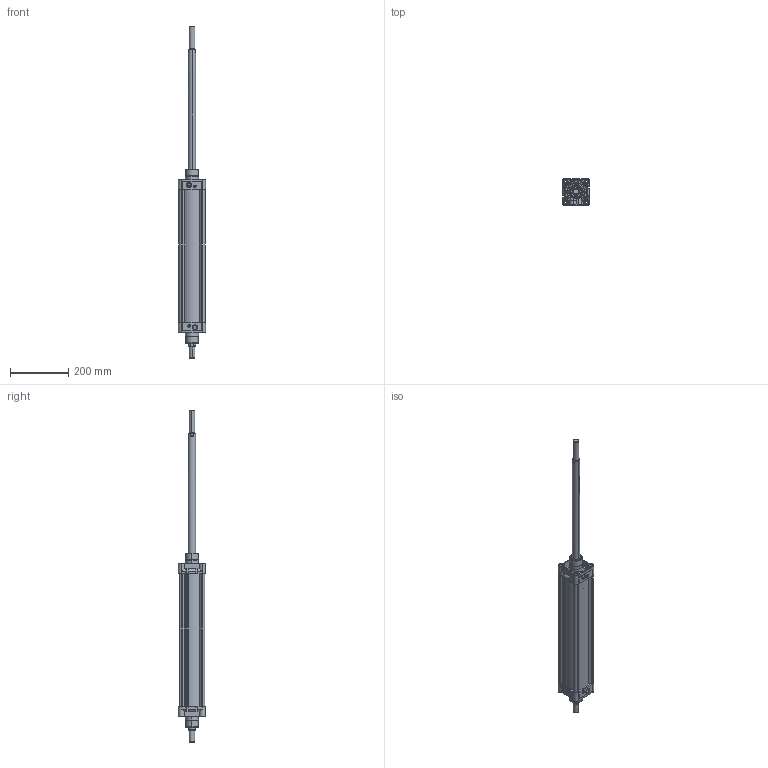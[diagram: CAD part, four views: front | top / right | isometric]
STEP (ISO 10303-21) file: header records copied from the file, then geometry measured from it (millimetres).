
FILE_DESCRIPTION (( 'STEP AP203' ), '1' );
FILE_NAME ('KDNT80X400CIFTMILLI-STROK AYARLI-CYLINDER.STEP', '2015-03-24T10:21:10', ( 'user' ), ( '' ), 'SwSTEP 2.0', 'SolidWorks 2013', '' );
FILE_SCHEMA (( 'CONFIG_CONTROL_DESIGN' ));
Length unit declared in the file: millimetre
Products named in the file (6): 烰 KAPAK  80; ORTA PÝSTON 80 ÇÝFT MÝLLÝ; Piston Mili 80x400; KDNT 80X400 BORU; SAPLAMALI M尳 STROK AYARLI 80x400; KDNT80X400CIFTMILLI-STROK AYARLI-CYLINDER
Assembly tree (6 placements, depth 2):
  KDNT80X400CIFTMILLI-STROK AYARLI-CYLINDER
    烰 KAPAK  80  x2
    ORTA PÝSTON 80 ÇÝFT MÝLLÝ
    Piston Mili 80x400
    KDNT 80X400 BORU
    SAPLAMALI M尳 STROK AYARLI 80x400
Bounding box: 93 x 93.3 x 1140 mm (x, y, z)
Volume: 1658590 mm3; surface area: 648637.6 mm2
Topology: 8 solids, 8 shells, 1088 faces, 2878 edges, 1848 vertices
Faces by surface type: cylinder 451, plane 322, cone 217, bspline 98
Entity records: 30499 total; most frequent: CARTESIAN_POINT 14136, ORIENTED_EDGE 3584, DIRECTION 2801, EDGE_CURVE 1792, VERTEX_POINT 1157, AXIS2_PLACEMENT_3D 1039, EDGE_LOOP 761, VECTOR 723
